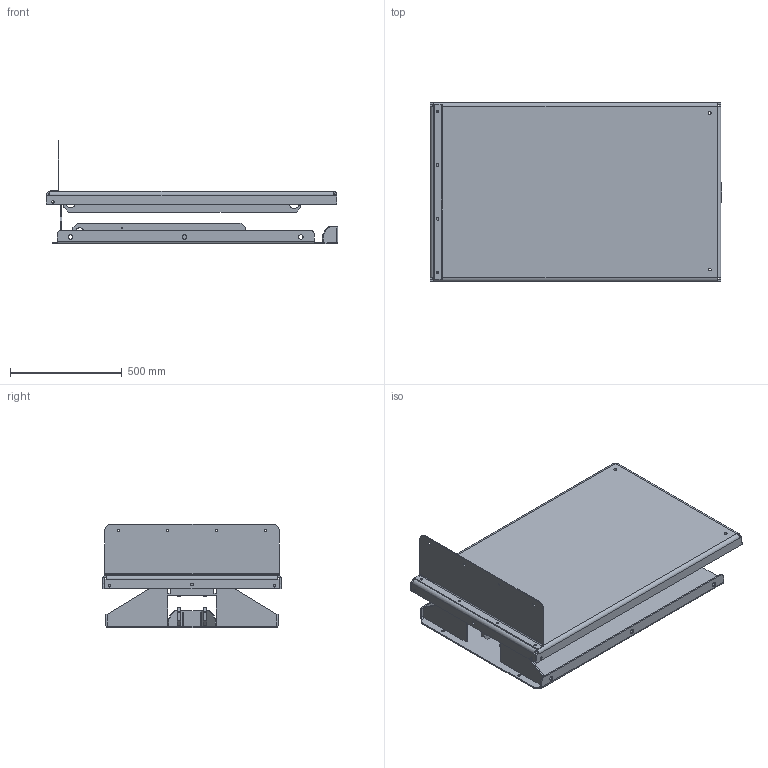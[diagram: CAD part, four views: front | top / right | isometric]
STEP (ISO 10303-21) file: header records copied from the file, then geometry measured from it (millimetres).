
FILE_DESCRIPTION(/* description */ ('ALT 750'),/* implementation_level */ '2;1');
FILE_NAME(/* name */ 'C:\Autodesk_VaultWork\Ritningar\TMP2\22035_Closed-Height.stp',/* time_stamp */ '2017-08-21T09:18:30+02:00',/* author */ ('johso'),/* organization */ (''),/* preprocessor_version */ 'ST-DEVELOPER v16.5',/* originating_system */ 'Autodesk Inventor 2017',/* authorisation */ '');
FILE_SCHEMA (('AUTOMOTIVE_DESIGN { 1 0 10303 214 3 1 1 }'));
Length unit declared in the file: millimetre
Products named in the file (12): 22035.tmp; 610072; 610075; 610074; 34509; 35006; 35007; 35002; 35001-1; 35004; 34017; 34157
Assembly tree (13 placements, depth 3):
  22035.tmp
    610072
      610075
      610074
      34509
    35006
      35007  x2
    35002
      35001-1
    35004
      34017  x2
    34157
Bounding box: 1304 x 800 x 465 mm (x, y, z)
Volume: 21809646.6 mm3; surface area: 5965895.6 mm2
Topology: 9 solids, 9 shells, 407 faces, 1107 edges, 718 vertices
Faces by surface type: cylinder 213, plane 194
Full cylindrical faces by diameter (mm): 6 x2, 11 x4, 12 x6, 12.5 x6, 13 x6, 20 x6, 40.3 x2, 46.3 x2
Entity records: 11768 total; most frequent: DIRECTION 2105, CARTESIAN_POINT 1964, ORIENTED_EDGE 1894, EDGE_CURVE 947, AXIS2_PLACEMENT_3D 769, VERTEX_POINT 628, LINE 567, VECTOR 567
